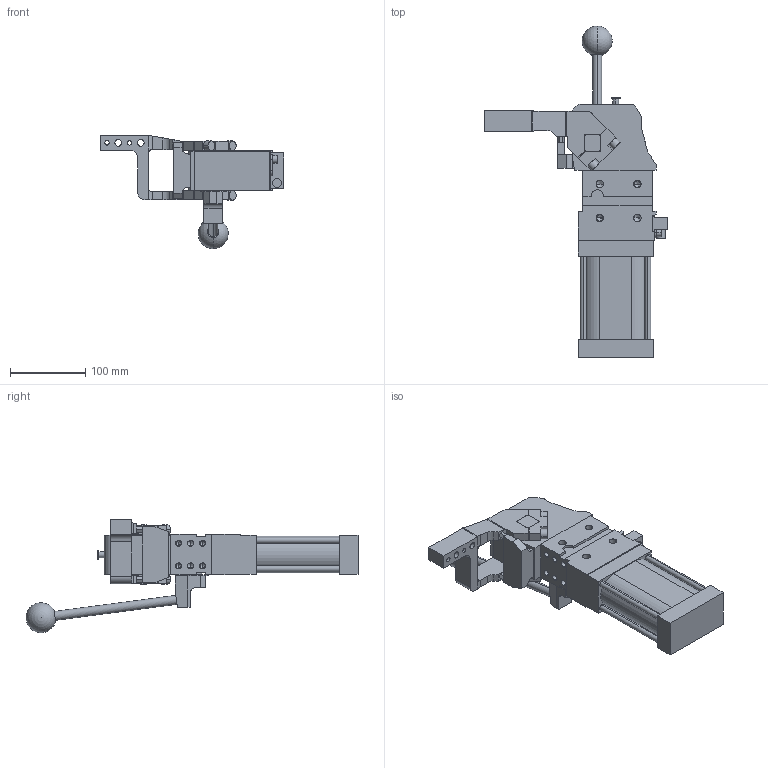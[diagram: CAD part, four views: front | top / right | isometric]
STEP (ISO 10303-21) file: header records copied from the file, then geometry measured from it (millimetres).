
FILE_DESCRIPTION (( 'STEP AP214' ), '1' );
FILE_NAME ('cplm63lbtv1si1g_135.STEP', '2023-01-26T14:45:22', ( '' ), ( '' ), 'SwSTEP 2.0', 'SolidWorks 2022', '' );
FILE_SCHEMA (( 'AUTOMOTIVE_DESIGN' ));
Length unit declared in the file: millimetre
Products named in the file (5): comando_manuale_cplm_63; cplm63lbtv1si1g_135; blocchetto_VEP_0; leva_v1s_cpl63t; meccanica_cplm_63_tassello_esterno
Assembly tree (4 placements, depth 2):
  cplm63lbtv1si1g_135
    meccanica_cplm_63_tassello_esterno
    blocchetto_VEP_0
    leva_v1s_cpl63t
    comando_manuale_cplm_63
Bounding box: 244.5 x 442.23 x 151 mm (x, y, z)
Volume: 1897074.5 mm3; surface area: 213512.9 mm2
Topology: 4 solids, 4 shells, 465 faces, 1227 edges, 765 vertices
Faces by surface type: plane 250, cylinder 163, cone 50, sphere 2
Entity records: 15635 total; most frequent: CARTESIAN_POINT 2521, DIRECTION 2466, ORIENTED_EDGE 2352, EDGE_CURVE 1176, AXIS2_PLACEMENT_3D 833, VECTOR 800, LINE 800, VERTEX_POINT 762
